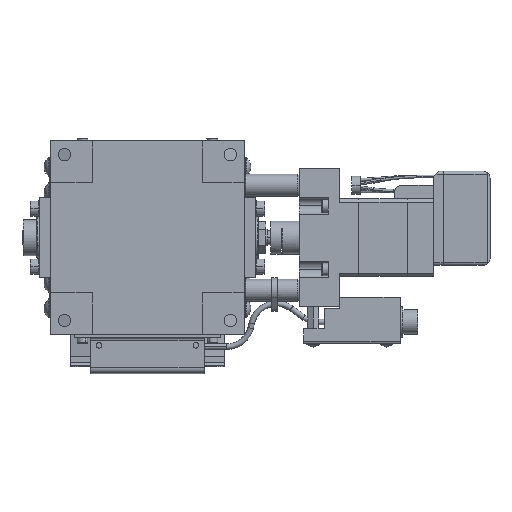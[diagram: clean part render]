
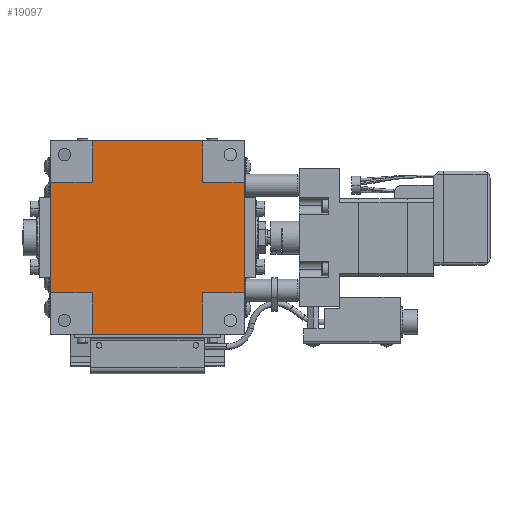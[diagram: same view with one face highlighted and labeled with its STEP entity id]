
A CAD part, front view. The second image highlights one B-rep face of the part: STEP entity #19097.
In plain terms, the highlighted planar face has unit normal (0, -1, 0).
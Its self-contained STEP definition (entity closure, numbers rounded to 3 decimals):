
#32 = CARTESIAN_POINT ( 'NONE',  ( 20., 0.3, -35. ) ) ;
#615 = VERTEX_POINT ( 'NONE', #15707 ) ;
#900 = PLANE ( 'NONE',  #7691 ) ;
#1849 = VECTOR ( 'NONE', #45458, 1000. ) ;
#2567 = VECTOR ( 'NONE', #11010, 1000. ) ;
#3038 = DIRECTION ( 'NONE',  ( -1., 0., 0. ) ) ;
#3099 = VECTOR ( 'NONE', #3038, 1000. ) ;
#3144 = DIRECTION ( 'NONE',  ( 0., 0., 1. ) ) ;
#3494 = LINE ( 'NONE', #41521, #14537 ) ;
#3630 = CARTESIAN_POINT ( 'NONE',  ( -20., 0.3, -35. ) ) ;
#3641 = DIRECTION ( 'NONE',  ( 0., 0., -1. ) ) ;
#4015 = CARTESIAN_POINT ( 'NONE',  ( 0., 0.3, 0. ) ) ;
#4333 = DIRECTION ( 'NONE',  ( 0., 1., 0. ) ) ;
#4964 = ORIENTED_EDGE ( 'NONE', *, *, #33167, .T. ) ;
#5073 = VECTOR ( 'NONE', #3641, 1000. ) ;
#5220 = VECTOR ( 'NONE', #41931, 1000. ) ;
#6084 = VERTEX_POINT ( 'NONE', #17074 ) ;
#6182 = ORIENTED_EDGE ( 'NONE', *, *, #26576, .T. ) ;
#6483 = CARTESIAN_POINT ( 'NONE',  ( -35., 0.3, 20. ) ) ;
#6999 = CARTESIAN_POINT ( 'NONE',  ( -35., 0.3, 20. ) ) ;
#7157 = ORIENTED_EDGE ( 'NONE', *, *, #27864, .T. ) ;
#7641 = VERTEX_POINT ( 'NONE', #34841 ) ;
#7691 = AXIS2_PLACEMENT_3D ( 'NONE', #4015, #4333, #42682 ) ;
#8042 = DIRECTION ( 'NONE',  ( -1., 0., 0. ) ) ;
#8273 = EDGE_CURVE ( 'NONE', #10951, #39052, #32302, .T. ) ;
#9006 = LINE ( 'NONE', #25394, #31515 ) ;
#9477 = VERTEX_POINT ( 'NONE', #37397 ) ;
#10623 = EDGE_CURVE ( 'NONE', #6084, #41635, #9006, .T. ) ;
#10951 = VERTEX_POINT ( 'NONE', #16759 ) ;
#10964 = VECTOR ( 'NONE', #13578, 1000. ) ;
#11010 = DIRECTION ( 'NONE',  ( 0., 0., 1. ) ) ;
#11240 = VECTOR ( 'NONE', #8042, 1000. ) ;
#13120 = ORIENTED_EDGE ( 'NONE', *, *, #19663, .T. ) ;
#13492 = LINE ( 'NONE', #17561, #20104 ) ;
#13578 = DIRECTION ( 'NONE',  ( -1., 0., 0. ) ) ;
#14261 = ORIENTED_EDGE ( 'NONE', *, *, #34731, .T. ) ;
#14537 = VECTOR ( 'NONE', #3144, 1000. ) ;
#14736 = VECTOR ( 'NONE', #38897, 1000. ) ;
#15062 = CARTESIAN_POINT ( 'NONE',  ( 20., 0.3, -20. ) ) ;
#15707 = CARTESIAN_POINT ( 'NONE',  ( -35., 0.3, -20. ) ) ;
#16759 = CARTESIAN_POINT ( 'NONE',  ( -20., 0.3, -35. ) ) ;
#17074 = CARTESIAN_POINT ( 'NONE',  ( -20., 0.3, 35. ) ) ;
#17561 = CARTESIAN_POINT ( 'NONE',  ( 20., 0.3, -20. ) ) ;
#18962 = VERTEX_POINT ( 'NONE', #24947 ) ;
#19097 = ADVANCED_FACE ( 'NONE', ( #43676 ), #900, .F. ) ;
#19524 = ORIENTED_EDGE ( 'NONE', *, *, #21718, .T. ) ;
#19663 = EDGE_CURVE ( 'NONE', #29250, #615, #29820, .T. ) ;
#20104 = VECTOR ( 'NONE', #45577, 1000. ) ;
#20665 = CARTESIAN_POINT ( 'NONE',  ( -20., 0.3, -35. ) ) ;
#21718 = EDGE_CURVE ( 'NONE', #45757, #6084, #44514, .T. ) ;
#22798 = EDGE_CURVE ( 'NONE', #39052, #34149, #33986, .T. ) ;
#23335 = LINE ( 'NONE', #26945, #5220 ) ;
#23829 = CARTESIAN_POINT ( 'NONE',  ( -20., 0.3, 20. ) ) ;
#24947 = CARTESIAN_POINT ( 'NONE',  ( 20., 0.3, 20. ) ) ;
#25394 = CARTESIAN_POINT ( 'NONE',  ( -20., 0.3, 20. ) ) ;
#25553 = LINE ( 'NONE', #20665, #1849 ) ;
#26340 = DIRECTION ( 'NONE',  ( 1., 0., 0. ) ) ;
#26576 = EDGE_CURVE ( 'NONE', #41635, #29250, #41715, .T. ) ;
#26945 = CARTESIAN_POINT ( 'NONE',  ( 20., 0.3, 20. ) ) ;
#27864 = EDGE_CURVE ( 'NONE', #18962, #45757, #23335, .T. ) ;
#27908 = EDGE_CURVE ( 'NONE', #30075, #10951, #25553, .T. ) ;
#28019 = CARTESIAN_POINT ( 'NONE',  ( 20., 0.3, 20. ) ) ;
#29250 = VERTEX_POINT ( 'NONE', #6999 ) ;
#29695 = ORIENTED_EDGE ( 'NONE', *, *, #27908, .T. ) ;
#29719 = ORIENTED_EDGE ( 'NONE', *, *, #39119, .T. ) ;
#29820 = LINE ( 'NONE', #32097, #5073 ) ;
#30075 = VERTEX_POINT ( 'NONE', #40296 ) ;
#30271 = ORIENTED_EDGE ( 'NONE', *, *, #8273, .T. ) ;
#30452 = CARTESIAN_POINT ( 'NONE',  ( 20., 0.3, -35. ) ) ;
#31515 = VECTOR ( 'NONE', #42513, 1000. ) ;
#31850 = ORIENTED_EDGE ( 'NONE', *, *, #10623, .T. ) ;
#32097 = CARTESIAN_POINT ( 'NONE',  ( -35., 0.3, 20. ) ) ;
#32302 = LINE ( 'NONE', #3630, #14736 ) ;
#33167 = EDGE_CURVE ( 'NONE', #615, #30075, #40567, .T. ) ;
#33986 = LINE ( 'NONE', #32, #2567 ) ;
#34149 = VERTEX_POINT ( 'NONE', #15062 ) ;
#34731 = EDGE_CURVE ( 'NONE', #7641, #9477, #3494, .T. ) ;
#34841 = CARTESIAN_POINT ( 'NONE',  ( 35., 0.3, -20. ) ) ;
#36761 = EDGE_LOOP ( 'NONE', ( #29719, #14261, #38333, #7157, #19524, #31850, #6182, #13120, #4964, #29695, #30271, #41542 ) ) ;
#37397 = CARTESIAN_POINT ( 'NONE',  ( 35., 0.3, 20. ) ) ;
#38333 = ORIENTED_EDGE ( 'NONE', *, *, #39803, .T. ) ;
#38730 = LINE ( 'NONE', #28019, #11240 ) ;
#38897 = DIRECTION ( 'NONE',  ( 1., 0., 0. ) ) ;
#39052 = VERTEX_POINT ( 'NONE', #30452 ) ;
#39119 = EDGE_CURVE ( 'NONE', #34149, #7641, #13492, .T. ) ;
#39362 = CARTESIAN_POINT ( 'NONE',  ( 20., 0.3, 35. ) ) ;
#39803 = EDGE_CURVE ( 'NONE', #9477, #18962, #38730, .T. ) ;
#40296 = CARTESIAN_POINT ( 'NONE',  ( -20., 0.3, -20. ) ) ;
#40567 = LINE ( 'NONE', #40828, #45545 ) ;
#40828 = CARTESIAN_POINT ( 'NONE',  ( -35., 0.3, -20. ) ) ;
#41521 = CARTESIAN_POINT ( 'NONE',  ( 35., 0.3, 20. ) ) ;
#41542 = ORIENTED_EDGE ( 'NONE', *, *, #22798, .T. ) ;
#41635 = VERTEX_POINT ( 'NONE', #23829 ) ;
#41715 = LINE ( 'NONE', #6483, #3099 ) ;
#41931 = DIRECTION ( 'NONE',  ( 0., 0., 1. ) ) ;
#42513 = DIRECTION ( 'NONE',  ( 0., 0., -1. ) ) ;
#42682 = DIRECTION ( 'NONE',  ( -1., 0., 0. ) ) ;
#43676 = FACE_OUTER_BOUND ( 'NONE', #36761, .T. ) ;
#44514 = LINE ( 'NONE', #45128, #10964 ) ;
#45128 = CARTESIAN_POINT ( 'NONE',  ( -20., 0.3, 35. ) ) ;
#45458 = DIRECTION ( 'NONE',  ( 0., 0., -1. ) ) ;
#45545 = VECTOR ( 'NONE', #26340, 1000. ) ;
#45577 = DIRECTION ( 'NONE',  ( 1., 0., 0. ) ) ;
#45757 = VERTEX_POINT ( 'NONE', #39362 ) ;
